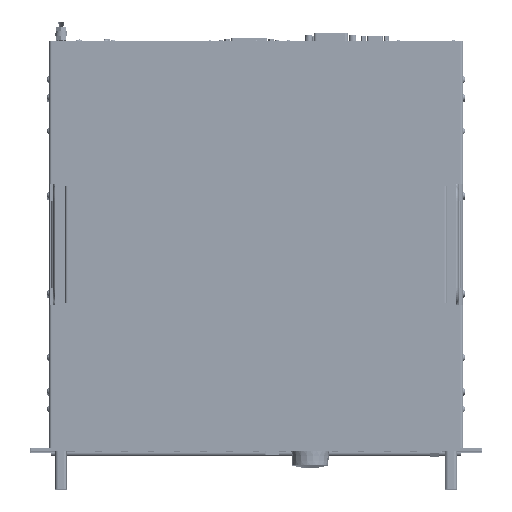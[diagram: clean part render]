
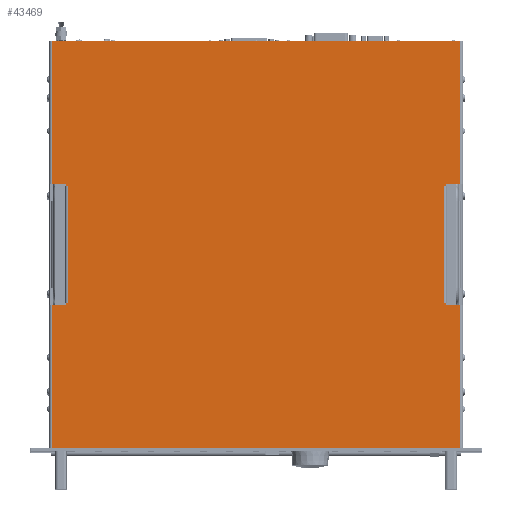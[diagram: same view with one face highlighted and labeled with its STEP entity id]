
A CAD part, top view. The second image highlights one B-rep face of the part: STEP entity #43469.
In plain terms, the highlighted planar face has unit normal (0, 0, 1).
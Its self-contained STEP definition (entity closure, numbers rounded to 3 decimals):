
#43469=ADVANCED_FACE('',(#91710),#91711,.F.);
#91710=FACE_OUTER_BOUND('',#171797,.T.);
#91711=PLANE('',#171798);
#171797=EDGE_LOOP('',(#300339,#300340,#300341,#300342,#300343,#300344,#300345,#300346,#300347,#300348,#300349,#300350,#300351,#300352,#300353,#300354,#300355,#300356,#300357,#300358));
#171798=AXIS2_PLACEMENT_3D('',#300359,#300360,#300361);
#300339=ORIENTED_EDGE('',*,*,#367727,.T.);
#300340=ORIENTED_EDGE('',*,*,#367747,.F.);
#300341=ORIENTED_EDGE('',*,*,#367748,.F.);
#300342=ORIENTED_EDGE('',*,*,#367391,.F.);
#300343=ORIENTED_EDGE('',*,*,#367713,.F.);
#300344=ORIENTED_EDGE('',*,*,#367376,.F.);
#300345=ORIENTED_EDGE('',*,*,#367702,.F.);
#300346=ORIENTED_EDGE('',*,*,#367749,.F.);
#300347=ORIENTED_EDGE('',*,*,#367745,.T.);
#300348=ORIENTED_EDGE('',*,*,#367740,.F.);
#300349=ORIENTED_EDGE('',*,*,#367737,.T.);
#300350=ORIENTED_EDGE('',*,*,#367750,.F.);
#300351=ORIENTED_EDGE('',*,*,#367678,.F.);
#300352=ORIENTED_EDGE('',*,*,#367366,.F.);
#300353=ORIENTED_EDGE('',*,*,#367667,.F.);
#300354=ORIENTED_EDGE('',*,*,#367386,.F.);
#300355=ORIENTED_EDGE('',*,*,#367751,.F.);
#300356=ORIENTED_EDGE('',*,*,#367752,.F.);
#300357=ORIENTED_EDGE('',*,*,#367724,.T.);
#300358=ORIENTED_EDGE('',*,*,#367732,.T.);
#300359=CARTESIAN_POINT('',(241.3,260.625,101.899));
#300360=DIRECTION('',(0.,0.,-1.0));
#300361=DIRECTION('',(1.0,0.,0.));
#367366=EDGE_CURVE('',#442445,#442447,#442448,.T.);
#367376=EDGE_CURVE('',#442463,#442465,#442466,.T.);
#367386=EDGE_CURVE('',#442481,#442483,#442484,.T.);
#367391=EDGE_CURVE('',#442490,#442492,#442493,.T.);
#367667=EDGE_CURVE('',#442483,#442445,#442923,.T.);
#367678=EDGE_CURVE('',#442447,#442938,#442939,.T.);
#367702=EDGE_CURVE('',#442971,#442463,#442973,.T.);
#367713=EDGE_CURVE('',#442465,#442490,#442988,.T.);
#367724=EDGE_CURVE('',#442999,#443002,#443004,.T.);
#367727=EDGE_CURVE('',#443009,#443006,#443010,.T.);
#367732=EDGE_CURVE('',#443002,#443009,#443015,.T.);
#367737=EDGE_CURVE('',#443021,#443019,#443022,.T.);
#367740=EDGE_CURVE('',#443021,#443025,#443026,.T.);
#367745=EDGE_CURVE('',#443031,#443025,#443033,.T.);
#367747=EDGE_CURVE('',#443035,#443006,#443036,.T.);
#367748=EDGE_CURVE('',#442492,#443035,#443037,.T.);
#367749=EDGE_CURVE('',#443031,#442971,#443038,.T.);
#367750=EDGE_CURVE('',#442938,#443019,#443039,.T.);
#367751=EDGE_CURVE('',#443040,#442481,#443041,.T.);
#367752=EDGE_CURVE('',#442999,#443040,#443042,.T.);
#442445=VERTEX_POINT('',#549718);
#442447=VERTEX_POINT('',#549720);
#442448=LINE('',#549721,#549722);
#442463=VERTEX_POINT('',#549740);
#442465=VERTEX_POINT('',#549742);
#442466=LINE('',#549743,#549744);
#442481=VERTEX_POINT('',#549762);
#442483=VERTEX_POINT('',#549764);
#442484=LINE('',#549765,#549766);
#442490=VERTEX_POINT('',#549773);
#442492=VERTEX_POINT('',#549775);
#442493=LINE('',#549776,#549777);
#442923=LINE('',#550328,#550329);
#442938=VERTEX_POINT('',#550349);
#442939=LINE('',#550350,#550351);
#442971=VERTEX_POINT('',#550397);
#442973=LINE('',#550400,#550401);
#442988=LINE('',#550421,#550422);
#442999=VERTEX_POINT('',#550437);
#443002=VERTEX_POINT('',#550441);
#443004=LINE('',#550443,#550444);
#443006=VERTEX_POINT('',#550446);
#443009=VERTEX_POINT('',#550450);
#443010=LINE('',#550451,#550452);
#443015=LINE('',#550457,#550458);
#443019=VERTEX_POINT('',#550463);
#443021=VERTEX_POINT('',#550466);
#443022=LINE('',#550467,#550468);
#443025=VERTEX_POINT('',#550471);
#443026=LINE('',#550472,#550473);
#443031=VERTEX_POINT('',#550478);
#443033=LINE('',#550481,#550482);
#443035=VERTEX_POINT('',#550484);
#443036=LINE('',#550485,#550486);
#443037=LINE('',#550487,#550488);
#443038=LINE('',#550489,#550490);
#443039=LINE('',#550491,#550492);
#443040=VERTEX_POINT('',#550493);
#443041=LINE('',#550494,#550495);
#443042=LINE('',#550496,#550497);
#549718=CARTESIAN_POINT('',(23.623,44.,101.899));
#549720=CARTESIAN_POINT('',(23.623,196.0,101.899));
#549721=CARTESIAN_POINT('',(23.623,190.313,101.899));
#549722=VECTOR('',#611129,1.0);
#549740=CARTESIAN_POINT('',(23.623,325.25,101.899));
#549742=CARTESIAN_POINT('',(23.623,477.25,101.899));
#549743=CARTESIAN_POINT('',(23.623,330.938,101.899));
#549744=VECTOR('',#611145,1.0);
#549762=CARTESIAN_POINT('',(458.977,196.0,101.899));
#549764=CARTESIAN_POINT('',(458.977,44.,101.899));
#549765=CARTESIAN_POINT('',(458.977,190.313,101.899));
#549766=VECTOR('',#611161,1.0);
#549773=CARTESIAN_POINT('',(458.977,477.25,101.899));
#549775=CARTESIAN_POINT('',(458.977,325.25,101.899));
#549776=CARTESIAN_POINT('',(458.977,330.938,101.899));
#549777=VECTOR('',#611169,1.0);
#550328=CARTESIAN_POINT('',(461.727,44.,101.899));
#550329=VECTOR('',#611555,1.0);
#550349=CARTESIAN_POINT('',(38.873,196.0,101.899));
#550350=CARTESIAN_POINT('',(20.873,196.0,101.899));
#550351=VECTOR('',#611573,1.0);
#550397=CARTESIAN_POINT('',(38.873,325.25,101.899));
#550400=CARTESIAN_POINT('',(38.873,325.25,101.899));
#550401=VECTOR('',#611601,1.0);
#550421=CARTESIAN_POINT('',(20.873,477.25,101.899));
#550422=VECTOR('',#611619,1.0);
#550437=CARTESIAN_POINT('',(443.727,198.0,101.899));
#550441=CARTESIAN_POINT('',(441.977,198.,101.899));
#550443=CARTESIAN_POINT('',(342.593,198.,101.899));
#550444=VECTOR('',#611631,1.0);
#550446=CARTESIAN_POINT('',(443.727,323.25,101.899));
#550450=CARTESIAN_POINT('',(441.977,323.25,101.899));
#550451=CARTESIAN_POINT('',(342.593,323.25,101.899));
#550452=VECTOR('',#611633,1.0);
#550457=CARTESIAN_POINT('',(441.977,260.625,101.899));
#550458=VECTOR('',#611643,1.0);
#550463=CARTESIAN_POINT('',(38.873,198.0,101.899));
#550466=CARTESIAN_POINT('',(40.623,198.,101.899));
#550467=CARTESIAN_POINT('',(140.007,198.,101.899));
#550468=VECTOR('',#611646,1.0);
#550471=CARTESIAN_POINT('',(40.623,323.25,101.899));
#550472=CARTESIAN_POINT('',(40.623,260.625,101.899));
#550473=VECTOR('',#611650,1.0);
#550478=CARTESIAN_POINT('',(38.873,323.25,101.899));
#550481=CARTESIAN_POINT('',(140.007,323.25,101.899));
#550482=VECTOR('',#611658,1.0);
#550484=CARTESIAN_POINT('',(443.727,325.25,101.899));
#550485=CARTESIAN_POINT('',(443.727,325.25,101.899));
#550486=VECTOR('',#611659,1.0);
#550487=CARTESIAN_POINT('',(461.727,325.25,101.899));
#550488=VECTOR('',#611660,1.0);
#550489=CARTESIAN_POINT('',(38.873,323.25,101.899));
#550490=VECTOR('',#611661,1.0);
#550491=CARTESIAN_POINT('',(38.873,196.0,101.899));
#550492=VECTOR('',#611662,1.0);
#550493=CARTESIAN_POINT('',(443.727,196.0,101.899));
#550494=CARTESIAN_POINT('',(443.727,196.0,101.899));
#550495=VECTOR('',#611663,1.0);
#550496=CARTESIAN_POINT('',(443.727,198.0,101.899));
#550497=VECTOR('',#611664,1.0);
#611129=DIRECTION('',(0.0,1.0,0.0));
#611145=DIRECTION('',(0.0,1.0,0.0));
#611161=DIRECTION('',(0.0,-1.0,0.0));
#611169=DIRECTION('',(0.0,-1.0,0.0));
#611555=DIRECTION('',(-1.0,0.0,0.0));
#611573=DIRECTION('',(1.0,0.0,0.0));
#611601=DIRECTION('',(-1.0,0.0,0.0));
#611619=DIRECTION('',(1.0,0.0,0.0));
#611631=DIRECTION('',(-1.0,0.0,0.0));
#611633=DIRECTION('',(1.0,0.0,0.0));
#611643=DIRECTION('',(0.0,1.0,0.0));
#611646=DIRECTION('',(-1.0,0.0,0.0));
#611650=DIRECTION('',(0.0,1.0,0.0));
#611658=DIRECTION('',(1.0,0.0,0.0));
#611659=DIRECTION('',(0.0,-1.0,0.0));
#611660=DIRECTION('',(-1.0,0.0,0.0));
#611661=DIRECTION('',(0.0,1.0,0.0));
#611662=DIRECTION('',(0.0,1.0,0.0));
#611663=DIRECTION('',(1.0,0.0,0.0));
#611664=DIRECTION('',(0.0,-1.0,0.0));
